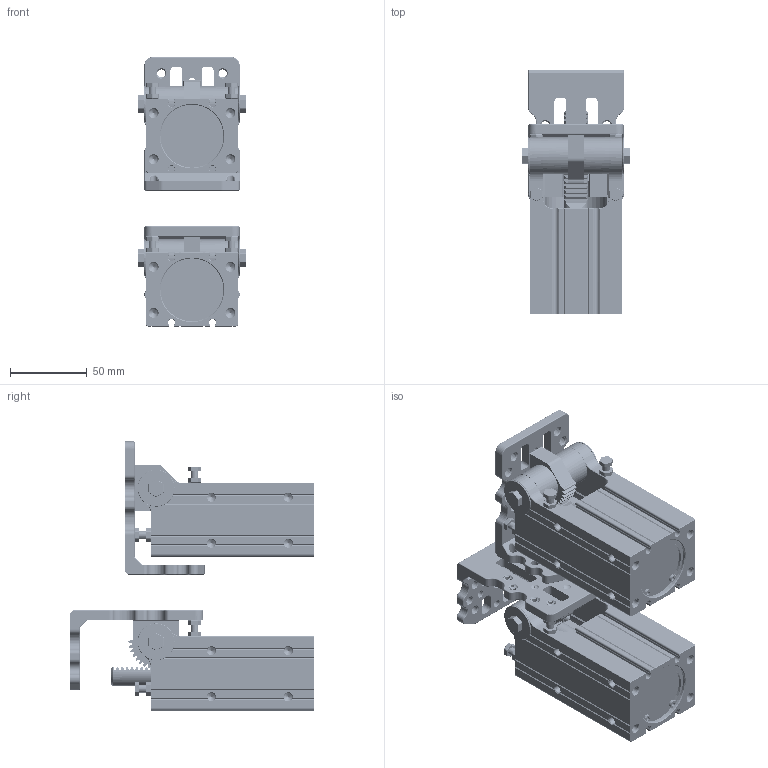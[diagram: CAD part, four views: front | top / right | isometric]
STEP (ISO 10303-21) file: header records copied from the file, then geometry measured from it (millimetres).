
FILE_DESCRIPTION(/* description */ (''),/* implementation_level */ '2;1');
FILE_NAME(/* name */ 'DHR5C-40M30ZG-LB.stp',/* time_stamp */ '2024-08-26T08:29:26+08:00',/* author */ (''),/* organization */ (''),/* preprocessor_version */ 'ST-DEVELOPER v15',/* originating_system */ 'SIEMENS PLM Software NX 10.0',/* authorisation */ '');
FILE_SCHEMA (('AP203_CONFIGURATION_CONTROLLED_3D_DESIGN_OF_MECHANICAL_PARTS_AND_ASSEMBLIES_MIM_LF { 1 0 10303 403 2 1 2}'));
Products named in the file (1): Admi288432FFstp2
Bounding box: 70.5 x 159.3 x 175.3 mm (x, y, z)
Volume: 560222.6 mm3; surface area: 152417.8 mm2
Topology: 8 solids, 30 shells, 3851 faces, 10433 edges, 6635 vertices
Faces by surface type: plane 2709, cylinder 613, cone 329, torus 130, bspline 60, sphere 8, extrusion 2
Full cylindrical faces by diameter (mm): 2.5 x18, 3 x4, 4 x8, 4.2 x50, 4.5 x4, 5 x40, 5.2 x16, 8 x4, 8.7 x4, 10 x9, 14 x4, 14.5 x1, 16 x3, 18 x2, 23 x2, 24 x4, 24.002 x4, 41 x4, 43 x4
Entity records: 154832 total; most frequent: CARTESIAN_POINT 61422, ORIENTED_EDGE 19442, DIRECTION 18508, EDGE_CURVE 9721, VECTOR 7574, LINE 7572, VERTEX_POINT 6383, AXIS2_PLACEMENT_3D 5467
